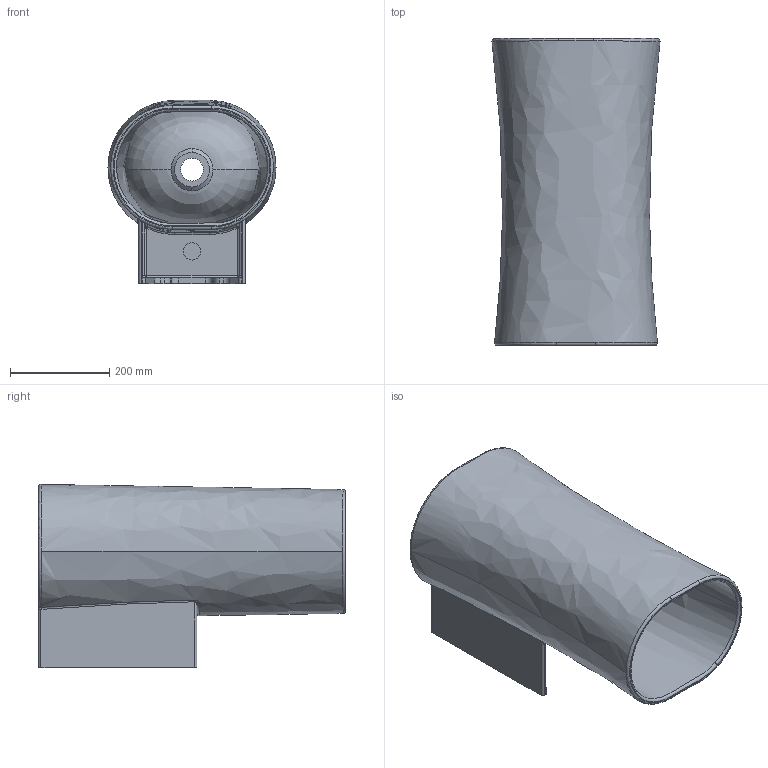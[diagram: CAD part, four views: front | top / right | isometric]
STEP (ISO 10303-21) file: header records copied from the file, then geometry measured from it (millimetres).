
FILE_DESCRIPTION (( 'STEP AP203' ), '1' );
FILE_NAME ('LAVABO NATIVO.STEP', '2015-03-30T17:16:20', ( '' ), ( '' ), 'SwSTEP 2.0', 'SolidWorks 2013', '' );
FILE_SCHEMA (( 'CONFIG_CONTROL_DESIGN' ));
Products named in the file (1): LAVABO NATIVO
Bounding box: 339.5 x 620 x 369.91 mm (x, y, z)
Volume: 9374045.5 mm3; surface area: 1481136.8 mm2
Topology: 1 solids, 1 shells, 119 faces, 318 edges, 196 vertices
Faces by surface type: bspline 48, cylinder 31, plane 26, torus 6, cone 4, sphere 4
Entity records: 45054 total; most frequent: CARTESIAN_POINT 42375, ORIENTED_EDGE 624, DIRECTION 439, EDGE_CURVE 312, VERTEX_POINT 196, AXIS2_PLACEMENT_3D 176, EDGE_LOOP 128, ADVANCED_FACE 119
